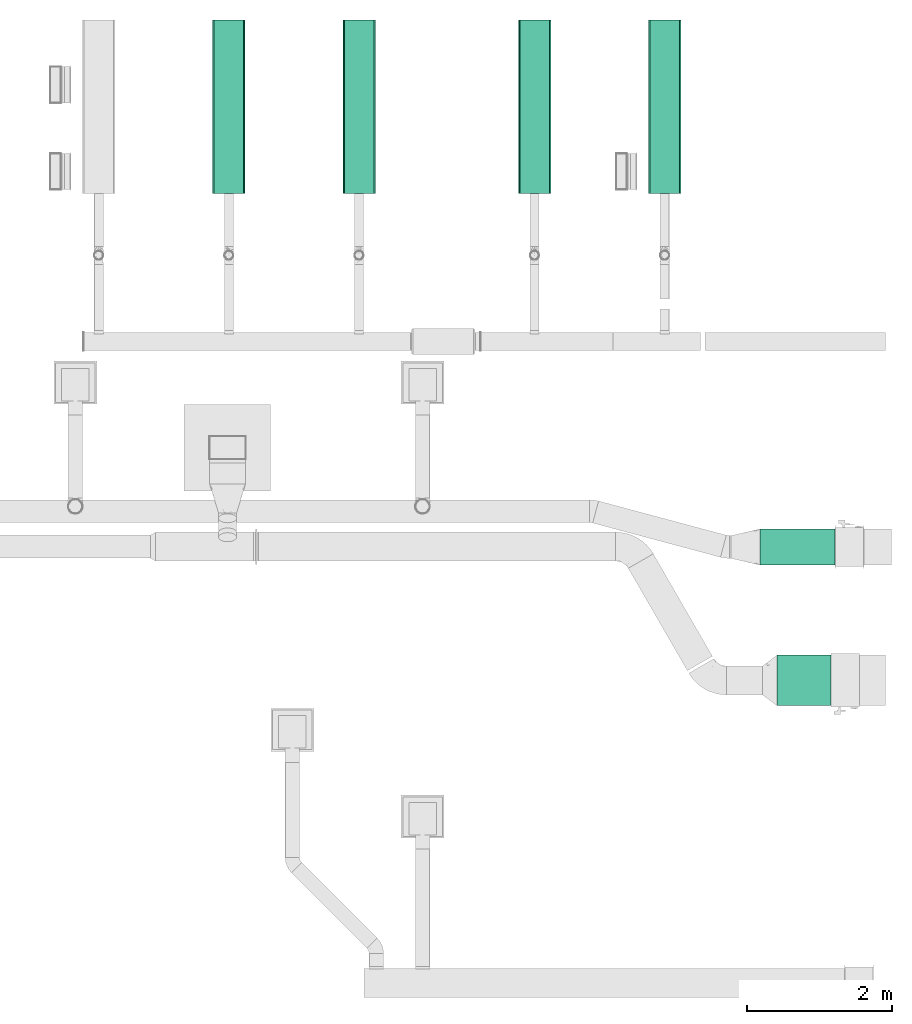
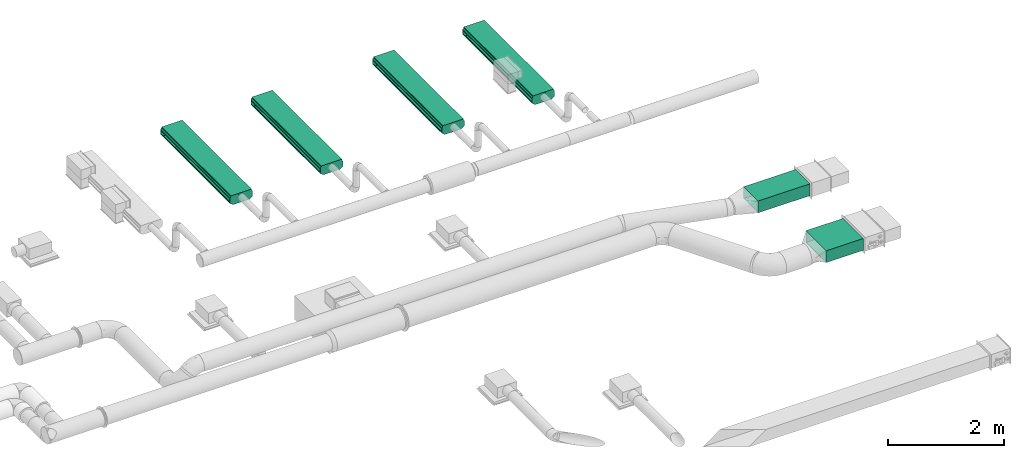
# One storey, part 9 of 36: 4 flow terminals, 2 flow segments.
"""IFC2X3 building model written with IfcOpenShell, lengths in millimetres."""

from ifc_helpers import new_model, entity, si_unit, converted_unit, derived_unit, direction, frame, origin_with_axes, origin_2d_with_axis, place, context, subcontext, project, spatial, hollow_rectangle, extrude, open_shell, surface_model, source, transform, mapped, type_object, element, save


model = new_model("IFC2X3")

# Units and contexts
model_context = context("Model", 3, precision=0.01, world=frame((0.0, 4.29681676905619e-09, 0.0)), true_north=direction((4.01073788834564e-13, 1.0)))
plan_context = context("Plan", 3, precision=0.01, world=frame((0.0, 4.29681676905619e-09, 0.0)), true_north=direction((4.01073788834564e-13, 1.0)))
body_context = subcontext(model_context, "Body", "Model", "MODEL_VIEW")
ifc_project = project(units=[converted_unit("PLANEANGLEUNIT", "DEGREE", entity("IfcPositiveLengthMeasure", 0.0174532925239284), si_unit("PLANEANGLEUNIT", "RADIAN"), dimensions=[0, 0, 0, 0, 0, 0, 0]), si_unit("AREAUNIT", "SQUARE_METRE"), si_unit("LENGTHUNIT", "METRE", prefix="MILLI"), si_unit("MASSUNIT", "GRAM", prefix="KILO"), si_unit("POWERUNIT", "WATT"), si_unit("PRESSUREUNIT", "PASCAL"), si_unit("FORCEUNIT", "NEWTON", prefix="KILO"), si_unit("ELECTRICCURRENTUNIT", "AMPERE"), si_unit("THERMODYNAMICTEMPERATUREUNIT", "DEGREE_CELSIUS"), si_unit("TIMEUNIT", "SECOND"), si_unit("VOLUMEUNIT", "CUBIC_METRE"), derived_unit("LINEARVELOCITYUNIT", [(si_unit("LENGTHUNIT", "METRE"), 1), (si_unit("TIMEUNIT", "SECOND"), -1)]), derived_unit("VOLUMETRICFLOWRATEUNIT", [(si_unit("VOLUMEUNIT", "CUBIC_METRE"), 1), (si_unit("TIMEUNIT", "SECOND"), -1)]), derived_unit("THERMALTRANSMITTANCEUNIT", [(si_unit("POWERUNIT", "WATT"), 1), (si_unit("THERMODYNAMICTEMPERATUREUNIT", "KELVIN"), -1), (si_unit("AREAUNIT", "SQUARE_METRE"), -1)])], contexts=[model_context, plan_context])

# Site, building, storey
site_placement = place(None, frame((0.0, -4.29681676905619e-09, 0.0), z_axis=(0.0, 0.0, 1.0), x_axis=(1.0, 0.0, 0.0)))
site = spatial("IfcSite", under=ifc_project, at=site_placement, CompositionType="ELEMENT")
building_placement = place(site_placement, frame((0.0, 4.29681676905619e-09, 0.0), z_axis=(0.0, 0.0, 1.0), x_axis=(1.0, 0.0, 0.0)))
building = spatial("IfcBuilding", under=site, at=building_placement, Name="mc-building", CompositionType="ELEMENT")
storey_placement = place(building_placement, frame((0.0, 0.0, 204000.0), z_axis=(0.0, 0.0, 1.0), x_axis=(1.0, 0.0, 0.0)))
storey = spatial("IfcBuildingStorey", under=building, at=storey_placement, Name="Nivå D", CompositionType="ELEMENT", Elevation=204000.0)

# Flow segments
duct_segment_type = type_object("IfcDuctSegmentType", Name="KK002T - Rektangulære, Forsinket stål", PredefinedType="RIGIDSEGMENT")
shared_shape_1 = source(origin_with_axes(), body_context, "Body", "SweptSolid", [
    extrude(hollow_rectangle(XDim=700.0, YDim=250.0, WallThickness=2.0, at=origin_2d_with_axis()), frame((0.0, 0.0, 0.0), z_axis=(1.0, 0.0, 0.0), x_axis=(0.0, 1.0, 0.0)), (0.0, 0.0, 1.0), 743.3),
])
flow_segment_1_placement = place(storey_placement, frame((531340.63626, 411882.76875, 2977.5), z_axis=(0.0, 0.0, 1.0), x_axis=(-1.0, 0.0, 0.0)))
element("IfcFlowSegment", 1, at=flow_segment_1_placement, inside=storey, type_object=duct_segment_type, Name="KK002T - Rektangulære, Forsinket stål", context=body_context, shape_type="MappedRepresentation", body=[
    mapped(shared_shape_1, transform((0.0, 0.0, 0.0), scale=1.0)),
])
shared_shape_2 = source(origin_with_axes(), body_context, "Body", "SweptSolid", [
    extrude(hollow_rectangle(XDim=500.0, YDim=250.0, WallThickness=2.0, at=origin_2d_with_axis()), frame((0.0, 0.0, 0.0), z_axis=(1.0, 0.0, 0.0), x_axis=(0.0, 1.0, 0.0)), (0.0, 0.0, 1.0), 1040.0),
])
flow_segment_2_placement = place(storey_placement, frame((531400.63626, 413727.0, 2930.0), z_axis=(0.0, 0.0, 1.0), x_axis=(-1.0, 0.0, 0.0)))
element("IfcFlowSegment", 2, at=flow_segment_2_placement, inside=storey, type_object=duct_segment_type, Name="KK002T - Rektangulære, Forsinket stål", context=body_context, shape_type="MappedRepresentation", body=[
    mapped(shared_shape_2, transform((0.0, 0.0, 0.0), scale=1.0)),
])

# Flow terminals
air_terminal_type = type_object("IfcAirTerminalType", Name="KBF-1-450-2400-A", PredefinedType="NOTDEFINED")
shared_shape_3 = source(origin_with_axes(), body_context, "Body", "SurfaceModel", [
    surface_model("IfcShellBasedSurfaceModel", [(1159.99998, 155.0, -200.1), (-1159.99998, -155.0, -200.1), (-1159.99998, 155.0, -200.1), (1159.99998, -155.0, -200.1), (-1159.99998, -155.0, -199.90001), (1159.99998, -155.0, -199.90001), (1159.99998, 155.0, -199.90001), (-1159.99998, 155.0, -199.90001), (1189.99997, -164.99999, -197.9), (1189.99997, 164.99999, -197.9), (1188.00001, 164.99999, -197.9), (1188.00001, -164.99999, -197.9), (1188.00001, 164.99999, -198.10001), (1189.99997, -164.99999, -198.10001), (1188.00001, -164.99999, -198.10001), (1189.99997, 164.99999, -198.10001), (1187.90002, 164.99999, -200.0), (1187.90002, -164.99999, -200.0), (1187.90002, -164.99999, -198.0), (1187.90002, 164.99999, -198.0), (1188.10001, -164.99999, -198.0), (1188.10001, 164.99999, -200.0), (1188.10001, 164.99999, -198.0), (1188.10001, -164.99999, -200.0), (1189.89997, 164.99999, -200.0), (1189.89997, -164.99999, -200.0), (1189.89997, -164.99999, -198.0), (1189.89997, 164.99999, -198.0), (1190.10003, -164.99999, -198.0), (1190.10003, 164.99999, -200.0), (1190.10003, 164.99999, -198.0), (1190.10003, -164.99999, -200.0), (1200.0, -164.99999, -199.90001), (1200.0, 164.99999, -199.90001), (1189.99997, 164.99999, -199.90001), (1189.99997, -164.99999, -199.90001), (1189.99997, 164.99999, -200.1), (1200.0, -164.99999, -200.1), (1189.99997, -164.99999, -200.1), (1200.0, 164.99999, -200.1), (-1189.99997, -164.99999, -198.10001), (-1189.99997, 164.99999, -198.10001), (-1188.00001, 164.99999, -198.10001), (-1188.00001, -164.99999, -198.10001), (-1188.00001, 164.99999, -197.9), (-1189.99997, -164.99999, -197.9), (-1188.00001, -164.99999, -197.9), (-1189.99997, 164.99999, -197.9), (-1188.10001, 164.99999, -200.0), (-1188.10001, -164.99999, -200.0), (-1188.10001, -164.99999, -198.0), (-1188.10001, 164.99999, -198.0), (-1187.90002, -164.99999, -198.0), (-1187.90002, 164.99999, -200.0), (-1187.90002, 164.99999, -198.0), (-1187.90002, -164.99999, -200.0), (-1190.10003, 164.99999, -200.0), (-1190.10003, -164.99999, -200.0), (-1190.10003, -164.99999, -198.0), (-1190.10003, 164.99999, -198.0), (-1189.89997, -164.99999, -198.0), (-1189.89997, 164.99999, -200.0), (-1189.89997, 164.99999, -198.0), (-1189.89997, -164.99999, -200.0), (-1200.0, -164.99999, -200.1), (-1200.0, 164.99999, -200.1), (-1189.99997, 164.99999, -200.1), (-1189.99997, -164.99999, -200.1), (-1189.99997, 164.99999, -199.90001), (-1200.0, -164.99999, -199.90001), (-1189.99997, -164.99999, -199.90001), (-1200.0, 164.99999, -199.90001), (1188.00001, -164.99999, -199.90001), (1188.00001, 164.99999, -199.90001), (1159.99998, 164.99999, -199.90001), (1159.99998, -164.99999, -199.90001), (1159.99998, 164.99999, -200.1), (1188.00001, -164.99999, -200.1), (1159.99998, -164.99999, -200.1), (1188.00001, 164.99999, -200.1), (-1188.00001, -164.99999, -200.1), (-1188.00001, 164.99999, -200.1), (-1159.99998, 164.99999, -200.1), (-1159.99998, -164.99999, -200.1), (-1159.99998, 164.99999, -199.90001), (-1188.00001, -164.99999, -199.90001), (-1159.99998, -164.99999, -199.90001), (-1188.00001, 164.99999, -199.90001), (1189.99997, -224.90001, -155.0), (-1189.99997, -224.90001, -155.0), (-1189.99997, -224.90001, -135.0), (1189.99997, -224.90001, -135.0), (-1189.99997, -225.1, -155.0), (1189.99997, -225.1, -155.0), (1189.99997, -225.1, -135.0), (-1189.99997, -225.1, -135.0), (1189.99997, 225.1, -155.0), (-1189.99997, 225.1, -155.0), (-1189.99997, 225.1, -135.0), (1189.99997, 225.1, -135.0), (-1189.99997, 224.90001, -155.0), (1189.99997, 224.90001, -155.0), (1189.99997, 224.90001, -135.0), (-1189.99997, 224.90001, -135.0), (-1200.0, -224.91885, -45.05843), (1200.0, -206.91884, -20.05843), (1200.0, -224.91885, -45.05843), (-1200.0, -206.91884, -20.05843), (1200.0, -225.08116, -44.94157), (-1200.0, -207.08115, -19.94157), (-1200.0, -225.08116, -44.94157), (1200.0, -207.08115, -19.94157), (-1200.0, 225.08116, -44.94157), (1200.0, 207.08115, -19.94157), (1200.0, 225.08116, -44.94157), (-1200.0, 207.08115, -19.94157), (1200.0, 224.91885, -45.05843), (-1200.0, 206.91884, -20.05843), (-1200.0, 224.91885, -45.05843), (1200.0, 206.91884, -20.05843), (1200.0, -224.90001, -155.0), (1189.99997, -224.90001, -45.0), (1200.0, -224.90001, -45.0), (1189.99997, -225.1, -45.0), (1200.0, -225.1, -155.0), (1200.0, -225.1, -45.0), (1200.0, 225.1, -155.0), (1189.99997, 225.1, -45.0), (1200.0, 225.1, -45.0), (1189.99997, 224.90001, -45.0), (1200.0, 224.90001, -155.0), (1200.0, 224.90001, -45.0), (-1200.0, -224.90001, -155.0), (-1200.0, -224.90001, -45.0), (-1189.99997, -224.90001, -45.0), (-1200.0, -225.1, -45.0), (-1189.99997, -225.1, -45.0), (-1200.0, -225.1, -155.0), (-1200.0, 225.1, -155.0), (-1200.0, 225.1, -45.0), (-1189.99997, 225.1, -45.0), (-1200.0, 224.90001, -45.0), (-1189.99997, 224.90001, -45.0), (-1200.0, 224.90001, -155.0), (1189.99997, -224.90001, -65.0), (-1189.99997, -224.90001, -65.0), (-1189.99997, -225.1, -65.0), (1189.99997, -225.1, -65.0), (1189.99997, 225.1, -65.0), (-1189.99997, 225.1, -65.0), (-1189.99997, 224.90001, -65.0), (1189.99997, 224.90001, -65.0), (1188.00001, -222.9411, -154.91918), (1189.99997, -163.9411, -197.91919), (1188.00001, -163.9411, -197.91919), (1189.99997, -222.9411, -154.91918), (1189.99997, -164.0589, -198.08081), (1189.99997, -223.0589, -155.08081), (1188.00001, -223.0589, -155.08081), (1188.00001, -164.0589, -198.08081), (1188.10001, -223.0, -155.0), (1188.10001, -161.0, -200.0), (1188.10001, -225.0, -155.0), (1187.90002, -225.0, -155.0), (1187.90002, -223.0, -155.0), (1187.90002, -161.0, -200.0), (1190.10003, -223.0, -155.0), (1190.10003, -161.0, -200.0), (1190.10003, -225.0, -155.0), (1189.89997, -225.0, -155.0), (1189.89997, -223.0, -155.0), (1189.89997, -161.0, -200.0), (1189.99997, -164.94, -199.91999), (1200.0, -224.93999, -154.92), (1200.0, -164.94, -199.91999), (1189.99997, -224.93999, -154.92), (1200.0, -225.06001, -155.08), (1189.99997, -225.06001, -155.08), (1189.99997, -165.06, -200.07999), (1200.0, -165.06, -200.07999), (-1189.67782, -222.37004, -154.10665), (-1187.94965, -162.94966, -197.92976), (-1189.94968, -160.94966, -197.92976), (-1187.94965, -222.94967, -154.92977), (-1188.0503, -163.05033, -198.07023), (-1188.0503, -223.05034, -155.07024), (-1189.77847, -222.4707, -154.24713), (-1190.05033, -161.05033, -198.07023), (-1189.89997, -223.0, -155.0), (-1189.89997, -161.0, -200.0), (-1189.89997, -225.0, -155.0), (-1190.10003, -225.0, -155.0), (-1190.10003, -223.0, -155.0), (-1190.10003, -161.0, -200.0), (-1187.90002, -223.0, -155.0), (-1187.90002, -161.0, -200.0), (-1187.90002, -225.0, -155.0), (-1188.10001, -225.0, -155.0), (-1188.10001, -223.0, -155.0), (-1188.10001, -161.0, -200.0), (-1200.0, -224.93999, -154.92), (-1189.99997, -224.93999, -154.92), (-1189.99997, -164.94, -199.91999), (-1200.0, -164.94, -199.91999), (-1189.99997, -225.06001, -155.08), (-1200.0, -225.06001, -155.08), (-1200.0, -165.06, -200.07999), (-1189.99997, -165.06, -200.07999), (-1188.00001, -164.94, -199.91999), (1188.00001, -224.93999, -154.92), (1188.00001, -164.94, -199.91999), (-1188.00001, -224.93999, -154.92), (1188.00001, -225.06001, -155.08), (-1188.00001, -225.06001, -155.08), (-1188.00001, -165.06, -200.07999), (1188.00001, -165.06, -200.07999), (1188.00001, 223.0589, -155.08081), (1189.99997, 164.0589, -198.08081), (1188.00001, 164.0589, -198.08081), (1189.99997, 223.0589, -155.08081), (1189.99997, 163.9411, -197.91919), (1189.99997, 222.9411, -154.91918), (1188.00001, 222.9411, -154.91918), (1188.00001, 163.9411, -197.91919), (1187.90002, 223.0, -155.0), (1187.90002, 161.0, -200.0), (1187.90002, 225.0, -155.0), (1188.10001, 225.0, -155.0), (1188.10001, 223.0, -155.0), (1188.10001, 161.0, -200.0), (1189.89997, 223.0, -155.0), (1189.89997, 161.0, -200.0), (1189.89997, 225.0, -155.0), (1190.10003, 225.0, -155.0), (1190.10003, 223.0, -155.0), (1190.10003, 161.0, -200.0), (1189.99997, 165.06, -200.07999), (1200.0, 225.06001, -155.08), (1200.0, 165.06, -200.07999), (1189.99997, 225.06001, -155.08), (1200.0, 224.93999, -154.92), (1189.99997, 224.93999, -154.92), (1189.99997, 164.94, -199.91999), (1200.0, 164.94, -199.91999), (-1189.77847, 222.4707, -154.24713), (-1188.0503, 163.05033, -198.07023), (-1190.05033, 161.05033, -198.07023), (-1188.0503, 223.05034, -155.07024), (-1187.94965, 162.94966, -197.92976), (-1187.94965, 222.94967, -154.92977), (-1189.67782, 222.37004, -154.10665), (-1189.94968, 160.94966, -197.92976), (-1190.10003, 223.0, -155.0), (-1190.10003, 161.0, -200.0), (-1190.10003, 225.0, -155.0), (-1189.89997, 225.0, -155.0), (-1189.89997, 223.0, -155.0), (-1189.89997, 161.0, -200.0), (-1188.10001, 223.0, -155.0), (-1188.10001, 161.0, -200.0), (-1188.10001, 225.0, -155.0), (-1187.90002, 225.0, -155.0), (-1187.90002, 223.0, -155.0), (-1187.90002, 161.0, -200.0), (-1200.0, 225.06001, -155.08), (-1189.99997, 225.06001, -155.08), (-1189.99997, 165.06, -200.07999), (-1200.0, 165.06, -200.07999), (-1189.99997, 224.93999, -154.92), (-1200.0, 224.93999, -154.92), (-1200.0, 164.94, -199.91999), (-1189.99997, 164.94, -199.91999), (-1188.00001, 165.06, -200.07999), (1188.00001, 225.06001, -155.08), (1188.00001, 165.06, -200.07999), (-1188.00001, 225.06001, -155.08), (1188.00001, 224.93999, -154.92), (-1188.00001, 224.93999, -154.92), (-1188.00001, 164.94, -199.91999), (1188.00001, 164.94, -199.91999), (1200.0, -205.0, -19.9), (-1200.0, -205.0, -19.9), (-1200.0, -206.99999, -19.9), (1200.0, -206.99999, -19.9), (-1200.0, -205.0, -20.1), (1200.0, -205.0, -20.1), (1200.0, -206.99999, -20.1), (-1200.0, -206.99999, -20.1), (1200.0, 205.0, -20.1), (-1200.0, 205.0, -20.1), (-1200.0, 206.99999, -20.1), (1200.0, 206.99999, -20.1), (-1200.0, 205.0, -19.9), (1200.0, 205.0, -19.9), (1200.0, 206.99999, -19.9), (-1200.0, 206.99999, -19.9), (1199.90002, -164.99999, -200.0), (1199.90002, 225.0, -155.0), (1199.90002, 164.99999, -200.0), (1199.90002, -225.0, -155.0), (1200.1, 225.0, -155.0), (1200.1, -225.0, -155.0), (1200.1, -164.99999, -200.0), (1200.1, 164.99999, -200.0), (-1200.1, -164.99999, -200.0), (-1200.1, 225.0, -155.0), (-1200.1, 164.99999, -200.0), (-1200.1, -225.0, -155.0), (-1199.90002, 225.0, -155.0), (-1199.90002, -225.0, -155.0), (-1199.90002, -164.99999, -200.0), (-1199.90002, 164.99999, -200.0), (1199.90002, -225.0, -45.0), (1199.90002, 225.0, -45.0), (1200.1, -225.0, -45.0), (1200.1, 225.0, -45.0), (-1200.1, -225.0, -45.0), (-1200.1, 225.0, -45.0), (-1199.90002, -225.0, -45.0), (-1199.90002, 225.0, -45.0), (1199.90002, 206.99999, -20.0), (1199.90002, -206.99999, -20.0), (1200.1, 206.99999, -20.0), (1200.1, -206.99999, -20.0), (-1200.1, 206.99999, -20.0), (-1200.1, -206.99999, -20.0), (-1199.90002, 206.99999, -20.0), (-1199.90002, -206.99999, -20.0), (-1200.0, -16.12443, -152.17718), (-1200.0, 31.15, -145.95338), (-1200.0, -31.15, -145.95338), (-1200.0, -44.05275, -136.05275), (-1200.0, -53.95338, -123.15), (-1200.0, -60.17718, -108.12442), (-1200.0, 60.17718, -108.12442), (-1200.0, 60.17718, -75.87557), (-1200.0, 16.12443, -152.17718), (-1200.0, 0.0, -154.29999), (-1200.0, 44.05275, -136.05275), (-1200.0, 53.95338, -123.15), (-1200.0, -60.17718, -75.87557), (-1200.0, -62.3, -92.0), (-1200.0, -44.05275, -47.94725), (-1200.0, -53.95338, -60.85), (-1200.0, -31.15, -38.04662), (-1200.0, 0.0, -29.7), (-1200.0, -16.12443, -31.82282), (-1200.0, 44.05275, -47.94725), (-1200.0, 53.95338, -60.85), (-1200.0, 62.3, -92.0), (-1200.0, 31.15, -38.04662), (-1200.0, 16.12443, -31.82282), (-1200.2, -31.15, -38.04662), (-1200.2, -16.12443, -31.82282), (-1200.2, 0.0, -29.7), (-1200.2, 60.17718, -75.87557), (-1200.2, -60.17718, -75.87557), (-1200.2, -53.95338, -60.85), (-1200.2, -44.05275, -47.94725), (-1200.2, 62.3, -92.0), (-1200.2, 31.15, -38.04662), (-1200.2, 44.05275, -47.94725), (-1200.2, 16.12443, -31.82282), (-1200.2, 53.95338, -60.85), (-1200.2, -62.3, -92.0), (-1200.2, 31.15, -145.95338), (-1200.2, -60.17718, -108.12442), (-1200.2, -53.95338, -123.15), (-1200.2, -31.15, -145.95338), (-1200.2, -44.05275, -136.05275), (-1200.2, 16.12443, -152.17718), (-1200.2, -16.12443, -152.17718), (-1200.2, 44.05275, -136.05275), (-1200.2, 53.95338, -123.15), (-1200.2, 60.17718, -108.12442), (-1200.2, 0.0, -154.29999), (1200.0, 205.0, 0.0), (-1200.0, 205.0, 0.0), (-1200.0, -205.0, 0.0), (1200.0, -205.0, 0.0), (-1200.0, 205.0, -20.0), (1200.0, 205.0, -20.0), (1200.0, -205.0, -20.0), (-1200.0, -205.0, -20.0)], [open_shell([[[0, 1, 2]], [[1, 0, 3]], [[4, 5, 6]], [[6, 7, 4]], [[4, 1, 3]], [[3, 5, 4]], [[5, 3, 0]], [[0, 6, 5]], [[6, 0, 2]], [[2, 7, 6]], [[7, 2, 1]], [[1, 4, 7]], [[8, 9, 10]], [[10, 11, 8]], [[12, 13, 14]], [[13, 12, 15]], [[15, 9, 8]], [[8, 13, 15]], [[13, 8, 11]], [[11, 14, 13]], [[14, 11, 10]], [[10, 12, 14]], [[12, 10, 9]], [[9, 15, 12]], [[16, 17, 18]], [[18, 19, 16]], [[20, 21, 22]], [[21, 20, 23]], [[23, 17, 16]], [[16, 21, 23]], [[21, 16, 19]], [[19, 22, 21]], [[22, 19, 18]], [[18, 20, 22]], [[20, 18, 17]], [[17, 23, 20]], [[24, 25, 26]], [[26, 27, 24]], [[28, 29, 30]], [[29, 28, 31]], [[31, 25, 24]], [[24, 29, 31]], [[29, 24, 27]], [[27, 30, 29]], [[30, 27, 26]], [[26, 28, 30]], [[28, 26, 25]], [[25, 31, 28]], [[32, 33, 34]], [[34, 35, 32]], [[36, 37, 38]], [[37, 36, 39]], [[39, 33, 32]], [[32, 37, 39]], [[37, 32, 35]], [[35, 38, 37]], [[38, 35, 34]], [[34, 36, 38]], [[36, 34, 33]], [[33, 39, 36]], [[40, 41, 42]], [[42, 43, 40]], [[44, 45, 46]], [[45, 44, 47]], [[47, 41, 40]], [[40, 45, 47]], [[45, 40, 43]], [[43, 46, 45]], [[46, 43, 42]], [[42, 44, 46]], [[44, 42, 41]], [[41, 47, 44]], [[48, 49, 50]], [[50, 51, 48]], [[52, 53, 54]], [[53, 52, 55]], [[55, 49, 48]], [[48, 53, 55]], [[53, 48, 51]], [[51, 54, 53]], [[54, 51, 50]], [[50, 52, 54]], [[52, 50, 49]], [[49, 55, 52]], [[56, 57, 58]], [[58, 59, 56]], [[60, 61, 62]], [[61, 60, 63]], [[63, 57, 56]], [[56, 61, 63]], [[61, 56, 59]], [[59, 62, 61]], [[62, 59, 58]], [[58, 60, 62]], [[60, 58, 57]], [[57, 63, 60]], [[64, 65, 66]], [[66, 67, 64]], [[68, 69, 70]], [[69, 68, 71]], [[71, 65, 64]], [[64, 69, 71]], [[69, 64, 67]], [[67, 70, 69]], [[70, 67, 66]], [[66, 68, 70]], [[68, 66, 65]], [[65, 71, 68]], [[72, 73, 74]], [[74, 75, 72]], [[76, 77, 78]], [[77, 76, 79]], [[79, 73, 72]], [[72, 77, 79]], [[77, 72, 75]], [[75, 78, 77]], [[78, 75, 74]], [[74, 76, 78]], [[76, 74, 73]], [[73, 79, 76]], [[80, 81, 82]], [[82, 83, 80]], [[84, 85, 86]], [[85, 84, 87]], [[87, 81, 80]], [[80, 85, 87]], [[85, 80, 83]], [[83, 86, 85]], [[86, 83, 82]], [[82, 84, 86]], [[84, 82, 81]], [[81, 87, 84]], [[5, 4, 86]], [[86, 75, 5]], [[1, 3, 78]], [[78, 83, 1]], [[1, 4, 5]], [[5, 3, 1]], [[3, 5, 75]], [[75, 78, 3]], [[78, 75, 86]], [[86, 83, 78]], [[83, 86, 4]], [[4, 1, 83]], [[0, 2, 82]], [[82, 76, 0]], [[7, 6, 74]], [[74, 84, 7]], [[7, 2, 0]], [[0, 6, 7]], [[6, 0, 76]], [[76, 74, 6]], [[74, 76, 82]], [[82, 84, 74]], [[84, 82, 2]], [[2, 7, 84]], [[88, 89, 90]], [[90, 91, 88]], [[92, 93, 94]], [[94, 95, 92]], [[92, 89, 88]], [[88, 93, 92]], [[93, 88, 91]], [[91, 94, 93]], [[94, 91, 90]], [[90, 95, 94]], [[95, 90, 89]], [[89, 92, 95]], [[96, 97, 98]], [[98, 99, 96]], [[100, 101, 102]], [[102, 103, 100]], [[100, 97, 96]], [[96, 101, 100]], [[101, 96, 99]], [[99, 102, 101]], [[102, 99, 98]], [[98, 103, 102]], [[103, 98, 97]], [[97, 100, 103]], [[104, 105, 106]], [[105, 104, 107]], [[108, 109, 110]], [[109, 108, 111]], [[111, 105, 107]], [[107, 109, 111]], [[109, 107, 104]], [[104, 110, 109]], [[110, 104, 106]], [[106, 108, 110]], [[111, 106, 105]], [[106, 111, 108]], [[112, 113, 114]], [[113, 112, 115]], [[116, 117, 118]], [[117, 116, 119]], [[119, 113, 115]], [[115, 117, 119]], [[118, 115, 112]], [[115, 118, 117]], [[118, 112, 114]], [[114, 116, 118]], [[116, 114, 113]], [[113, 119, 116]], [[120, 88, 121]], [[121, 122, 120]], [[123, 124, 125]], [[124, 123, 93]], [[93, 88, 120]], [[120, 124, 93]], [[124, 120, 122]], [[122, 125, 124]], [[125, 122, 121]], [[121, 123, 125]], [[93, 121, 88]], [[121, 93, 123]], [[126, 96, 127]], [[127, 128, 126]], [[129, 130, 131]], [[130, 129, 101]], [[101, 96, 126]], [[126, 130, 101]], [[130, 126, 128]], [[128, 131, 130]], [[131, 128, 127]], [[127, 129, 131]], [[101, 127, 96]], [[127, 101, 129]], [[89, 132, 133]], [[133, 134, 89]], [[135, 92, 136]], [[92, 135, 137]], [[137, 132, 89]], [[89, 92, 137]], [[92, 89, 134]], [[134, 136, 92]], [[136, 134, 133]], [[133, 135, 136]], [[137, 133, 132]], [[133, 137, 135]], [[97, 138, 139]], [[139, 140, 97]], [[141, 100, 142]], [[100, 141, 143]], [[143, 138, 97]], [[97, 100, 143]], [[100, 97, 140]], [[140, 142, 100]], [[142, 140, 139]], [[139, 141, 142]], [[143, 139, 138]], [[139, 143, 141]], [[144, 145, 134]], [[134, 121, 144]], [[146, 147, 123]], [[123, 136, 146]], [[146, 145, 144]], [[144, 147, 146]], [[147, 144, 121]], [[121, 123, 147]], [[123, 121, 134]], [[134, 136, 123]], [[136, 134, 145]], [[145, 146, 136]], [[148, 149, 140]], [[140, 127, 148]], [[150, 151, 129]], [[129, 142, 150]], [[150, 149, 148]], [[148, 151, 150]], [[151, 148, 127]], [[127, 129, 151]], [[129, 127, 140]], [[140, 142, 129]], [[142, 140, 149]], [[149, 150, 142]], [[152, 153, 154]], [[153, 152, 155]], [[156, 157, 158]], [[158, 159, 156]], [[156, 153, 155]], [[155, 157, 156]], [[158, 155, 152]], [[155, 158, 157]], [[158, 152, 154]], [[154, 159, 158]], [[159, 154, 153]], [[153, 156, 159]], [[160, 23, 161]], [[23, 160, 162]], [[17, 163, 164]], [[164, 165, 17]], [[17, 23, 162]], [[162, 163, 17]], [[163, 162, 160]], [[160, 164, 163]], [[164, 160, 161]], [[161, 165, 164]], [[165, 161, 23]], [[23, 17, 165]], [[166, 31, 167]], [[31, 166, 168]], [[25, 169, 170]], [[170, 171, 25]], [[25, 31, 168]], [[168, 169, 25]], [[169, 168, 166]], [[166, 170, 169]], [[170, 166, 167]], [[167, 171, 170]], [[171, 167, 31]], [[31, 25, 171]], [[172, 173, 174]], [[173, 172, 175]], [[176, 177, 178]], [[178, 179, 176]], [[176, 173, 175]], [[175, 177, 176]], [[178, 175, 172]], [[175, 178, 177]], [[178, 172, 174]], [[174, 179, 178]], [[179, 174, 173]], [[173, 176, 179]], [[180, 181, 182]], [[181, 180, 183]], [[184, 185, 186]], [[186, 187, 184]], [[184, 181, 183]], [[183, 185, 184]], [[185, 183, 180]], [[180, 186, 185]], [[187, 180, 182]], [[180, 187, 186]], [[187, 182, 181]], [[181, 184, 187]], [[188, 63, 189]], [[63, 188, 190]], [[57, 191, 192]], [[192, 193, 57]], [[57, 63, 190]], [[190, 191, 57]], [[191, 190, 188]], [[188, 192, 191]], [[192, 188, 189]], [[189, 193, 192]], [[57, 189, 63]], [[189, 57, 193]], [[194, 55, 195]], [[55, 194, 196]], [[49, 197, 198]], [[198, 199, 49]], [[49, 55, 196]], [[196, 197, 49]], [[197, 196, 194]], [[194, 198, 197]], [[198, 194, 195]], [[195, 199, 198]], [[49, 195, 55]], [[195, 49, 199]], [[200, 201, 202]], [[202, 203, 200]], [[204, 205, 206]], [[206, 207, 204]], [[204, 201, 200]], [[200, 205, 204]], [[205, 200, 203]], [[203, 206, 205]], [[206, 203, 202]], [[202, 207, 206]], [[204, 202, 201]], [[202, 204, 207]], [[208, 209, 210]], [[209, 208, 211]], [[212, 213, 214]], [[214, 215, 212]], [[212, 209, 211]], [[211, 213, 212]], [[214, 211, 208]], [[211, 214, 213]], [[214, 208, 210]], [[210, 215, 214]], [[215, 210, 209]], [[209, 212, 215]], [[216, 217, 218]], [[217, 216, 219]], [[220, 221, 222]], [[222, 223, 220]], [[221, 217, 219]], [[217, 221, 220]], [[221, 219, 216]], [[216, 222, 221]], [[222, 216, 218]], [[218, 223, 222]], [[223, 218, 217]], [[217, 220, 223]], [[224, 16, 225]], [[16, 224, 226]], [[21, 227, 228]], [[228, 229, 21]], [[21, 16, 226]], [[226, 227, 21]], [[227, 226, 224]], [[224, 228, 227]], [[228, 224, 225]], [[225, 229, 228]], [[229, 225, 16]], [[16, 21, 229]], [[230, 24, 231]], [[24, 230, 232]], [[29, 233, 234]], [[234, 235, 29]], [[29, 24, 232]], [[232, 233, 29]], [[233, 232, 230]], [[230, 234, 233]], [[234, 230, 231]], [[231, 235, 234]], [[235, 231, 24]], [[24, 29, 235]], [[236, 237, 238]], [[237, 236, 239]], [[240, 241, 242]], [[242, 243, 240]], [[240, 237, 239]], [[239, 241, 240]], [[242, 239, 236]], [[239, 242, 241]], [[242, 236, 238]], [[238, 243, 242]], [[240, 238, 237]], [[238, 240, 243]], [[244, 245, 246]], [[245, 244, 247]], [[248, 249, 250]], [[250, 251, 248]], [[248, 245, 247]], [[247, 249, 248]], [[249, 247, 244]], [[244, 250, 249]], [[250, 244, 246]], [[246, 251, 250]], [[248, 246, 245]], [[246, 248, 251]], [[252, 56, 253]], [[56, 252, 254]], [[61, 255, 256]], [[256, 257, 61]], [[61, 56, 254]], [[254, 255, 61]], [[255, 254, 252]], [[252, 256, 255]], [[256, 252, 253]], [[253, 257, 256]], [[61, 253, 56]], [[253, 61, 257]], [[258, 48, 259]], [[48, 258, 260]], [[53, 261, 262]], [[262, 263, 53]], [[53, 48, 260]], [[260, 261, 53]], [[261, 260, 258]], [[258, 262, 261]], [[262, 258, 259]], [[259, 263, 262]], [[53, 259, 48]], [[259, 53, 263]], [[264, 265, 266]], [[266, 267, 264]], [[268, 269, 270]], [[270, 271, 268]], [[268, 265, 264]], [[264, 269, 268]], [[270, 264, 267]], [[264, 270, 269]], [[270, 267, 266]], [[266, 271, 270]], [[271, 266, 265]], [[265, 268, 271]], [[272, 273, 274]], [[273, 272, 275]], [[276, 277, 278]], [[278, 279, 276]], [[276, 273, 275]], [[275, 277, 276]], [[278, 275, 272]], [[275, 278, 277]], [[278, 272, 274]], [[274, 279, 278]], [[279, 274, 273]], [[273, 276, 279]], [[280, 281, 282]], [[282, 283, 280]], [[284, 285, 286]], [[286, 287, 284]], [[284, 281, 280]], [[280, 285, 284]], [[286, 280, 283]], [[280, 286, 285]], [[286, 283, 282]], [[282, 287, 286]], [[284, 282, 281]], [[282, 284, 287]], [[288, 289, 290]], [[290, 291, 288]], [[292, 293, 294]], [[294, 295, 292]], [[292, 289, 288]], [[288, 293, 292]], [[294, 288, 291]], [[288, 294, 293]], [[294, 291, 290]], [[290, 295, 294]], [[292, 290, 289]], [[290, 292, 295]], [[296, 297, 298]], [[297, 296, 299]], [[300, 301, 302]], [[302, 303, 300]], [[300, 297, 299]], [[299, 301, 300]], [[302, 299, 296]], [[299, 302, 301]], [[302, 296, 298]], [[298, 303, 302]], [[303, 298, 297]], [[297, 300, 303]], [[304, 305, 306]], [[305, 304, 307]], [[308, 309, 310]], [[310, 311, 308]], [[308, 305, 307]], [[307, 309, 308]], [[310, 307, 304]], [[307, 310, 309]], [[310, 304, 306]], [[306, 311, 310]], [[311, 306, 305]], [[305, 308, 311]], [[297, 299, 312]], [[312, 313, 297]], [[314, 300, 315]], [[300, 314, 301]], [[300, 299, 297]], [[299, 300, 301]], [[300, 297, 313]], [[313, 315, 300]], [[314, 313, 312]], [[313, 314, 315]], [[314, 312, 299]], [[299, 301, 314]], [[305, 307, 316]], [[316, 317, 305]], [[318, 308, 319]], [[308, 318, 309]], [[308, 307, 305]], [[307, 308, 309]], [[308, 305, 317]], [[317, 319, 308]], [[318, 317, 316]], [[317, 318, 319]], [[318, 316, 307]], [[307, 309, 318]], [[312, 320, 313]], [[320, 312, 321]], [[322, 323, 314]], [[314, 315, 322]], [[322, 320, 321]], [[321, 323, 322]], [[323, 321, 312]], [[312, 314, 323]], [[314, 312, 313]], [[313, 315, 314]], [[315, 313, 320]], [[320, 322, 315]], [[316, 324, 317]], [[324, 316, 325]], [[326, 327, 318]], [[318, 319, 326]], [[326, 324, 325]], [[325, 327, 326]], [[327, 325, 316]], [[316, 318, 327]], [[318, 316, 317]], [[317, 319, 318]], [[319, 317, 324]], [[324, 326, 319]], [[328, 329, 330]], [[331, 330, 332]], [[329, 333, 330]], [[332, 330, 333]], [[334, 335, 333]], [[336, 329, 328]], [[328, 337, 336]], [[338, 339, 329]], [[334, 329, 339]], [[333, 329, 334]], [[340, 341, 333]], [[342, 343, 340]], [[344, 342, 340]], [[345, 346, 344]], [[340, 345, 344]], [[347, 345, 340]], [[348, 347, 335]], [[335, 334, 349]], [[350, 351, 347]], [[347, 333, 335]], [[345, 347, 351]], [[347, 340, 333]], [[352, 353, 354]], [[352, 354, 355]], [[356, 357, 358]], [[358, 352, 355]], [[356, 358, 359]], [[360, 361, 362]], [[361, 354, 362]], [[363, 355, 361]], [[361, 355, 354]], [[355, 359, 358]], [[359, 364, 356]], [[364, 365, 366]], [[366, 365, 367]], [[365, 368, 367]], [[369, 367, 368]], [[370, 371, 368]], [[372, 365, 373]], [[374, 373, 365]], [[374, 365, 364]], [[365, 370, 368]], [[370, 375, 371]], [[359, 374, 364]], [[359, 334, 374]], [[374, 339, 373]], [[365, 372, 329]], [[338, 372, 373]], [[370, 365, 336]], [[334, 339, 374]], [[359, 349, 334]], [[365, 329, 336]], [[329, 372, 338]], [[373, 339, 338]], [[370, 336, 337]], [[337, 375, 370]], [[375, 328, 371]], [[371, 330, 368]], [[367, 369, 332]], [[331, 369, 368]], [[366, 367, 333]], [[330, 331, 368]], [[371, 328, 330]], [[366, 333, 341]], [[333, 367, 332]], [[369, 331, 332]], [[366, 341, 364]], [[337, 328, 375]], [[364, 340, 356]], [[356, 343, 357]], [[352, 358, 344]], [[342, 358, 357]], [[353, 352, 346]], [[340, 343, 356]], [[364, 341, 340]], [[352, 344, 346]], [[344, 358, 342]], [[357, 343, 342]], [[353, 346, 345]], [[345, 354, 353]], [[354, 351, 362]], [[362, 350, 360]], [[363, 361, 348]], [[347, 361, 360]], [[355, 363, 335]], [[350, 347, 360]], [[362, 351, 350]], [[355, 335, 349]], [[335, 363, 348]], [[361, 347, 348]], [[355, 349, 359]], [[345, 351, 354]], [[376, 377, 378]], [[378, 379, 376]], [[380, 381, 382]], [[382, 383, 380]], [[380, 377, 376]], [[376, 381, 380]], [[381, 376, 379]], [[379, 382, 381]], [[382, 379, 378]], [[378, 383, 382]], [[383, 378, 377]], [[377, 380, 383]]])]),
])
for number, where, z_axis, x_axis in (
    (3, (524818.76742, 419813.85375, 2692.00260000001), (0.0, 0.0, 1.0), (0.0, 1.0, 0.0)),
    (4, (523018.76742, 419813.85375, 2692.00260000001), (0.0, 0.0, 1.0), (0.0, 1.0, 0.0)),
    (5, (527245.00387, 419813.85375, 2692.00260000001), (0.0, 0.0, 1.0), (0.0, 1.0, 0.0)),
    (6, (529045.00387, 419813.85375, 2692.00260000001), (0.0, 0.0, 1.0), (0.0, 1.0, 0.0)),
):
    element("IfcFlowTerminal", number, at=place(storey_placement, frame(where, z_axis=z_axis, x_axis=x_axis)), inside=storey, type_object=air_terminal_type, Name="KBF-1-450-2400-A", context=body_context, shape_type="MappedRepresentation", body=[
        mapped(shared_shape_3, transform((0.0, 0.0, 0.0), scale=1.0)),
    ])

save(model, "model.ifc")
